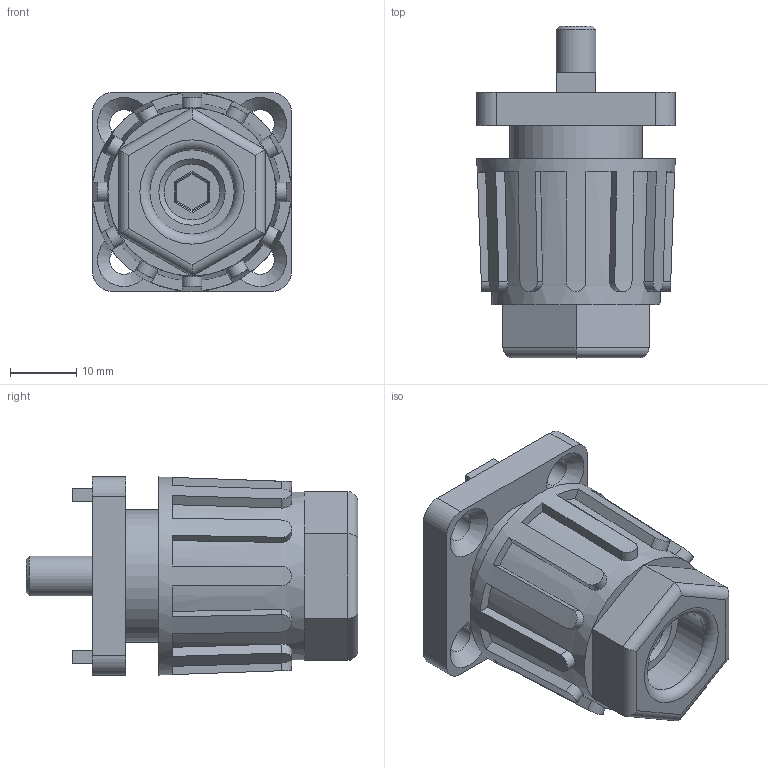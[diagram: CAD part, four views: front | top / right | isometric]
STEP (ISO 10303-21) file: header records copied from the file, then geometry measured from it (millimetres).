
FILE_DESCRIPTION(/* description */ ('STEP AP214'),/* implementation_level */ '2;1');
FILE_NAME(/* name */ '098H300606(40)',/* time_stamp */ '2023-08-28T15:33:27+02:00',/* author */ ('License CC BY-ND 4.0'),/* organization */ ('CADENAS'),/* preprocessor_version */ 'ST-DEVELOPER v19.3',/* originating_system */ 'PARTsolutions',/* authorisation */ ' ');
FILE_SCHEMA (('AUTOMOTIVE_DESIGN {1 0 10303 214 3 1 1}'));
Length unit declared in the file: millimetre
Products named in the file (4): 098H300606(40); 58; 098H300606_2; 098H300606_1
Assembly tree (3 placements, depth 2):
  098H300606(40)
    58
    098H300606_2
    098H300606_1
Bounding box: 30 x 50 x 30 mm (x, y, z)
Volume: 17489.1 mm3; surface area: 13470.8 mm2
Topology: 3 solids, 3 shells, 162 faces, 388 edges, 244 vertices
Faces by surface type: plane 98, cylinder 49, cone 13, torus 2
Full cylindrical faces by diameter (mm): 4.3 x4, 6 x1, 6.4 x1, 8.4 x1, 10 x1, 12.71 x1, 13 x1, 15 x1, 16.5 x1, 18 x1, 20 x1, 21.5 x1
Entity records: 4718 total; most frequent: CARTESIAN_POINT 1047, DIRECTION 716, ORIENTED_EDGE 708, EDGE_CURVE 354, AXIS2_PLACEMENT_3D 269, VERTEX_POINT 240, EDGE_LOOP 214, FACE_BOUND 214
